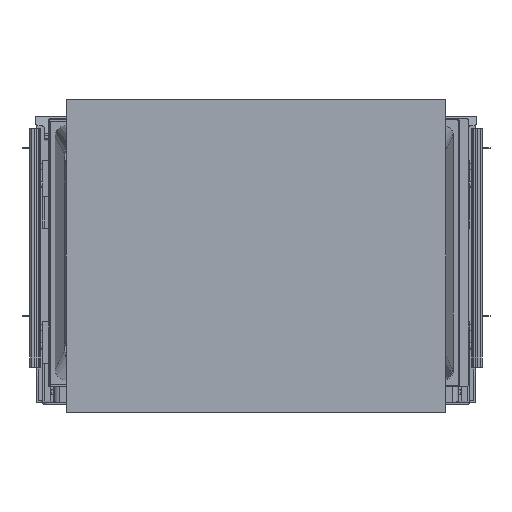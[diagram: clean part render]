
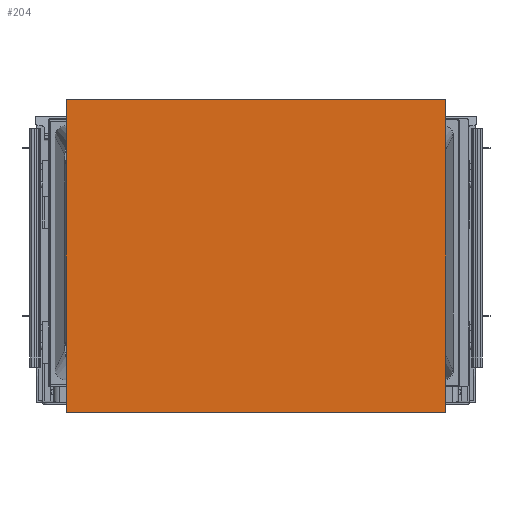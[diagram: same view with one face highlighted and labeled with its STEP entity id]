
A CAD part, front view. The second image highlights one B-rep face of the part: STEP entity #204.
In plain terms, the highlighted planar face has unit normal (0, -1, 0).
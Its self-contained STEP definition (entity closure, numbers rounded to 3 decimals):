
#62=DIRECTION('',(0.,0.,1.));
#63=VECTOR('',#62,393.);
#64=CARTESIAN_POINT('',(-238.5,-16.,-374.));
#65=LINE('',#64,#63);
#66=DIRECTION('',(-1.,0.,0.));
#67=VECTOR('',#66,477.);
#68=CARTESIAN_POINT('',(238.5,-16.,-374.));
#69=LINE('',#68,#67);
#74=DIRECTION('',(-1.,0.,0.));
#75=VECTOR('',#74,477.);
#76=CARTESIAN_POINT('',(238.5,-16.,19.));
#77=LINE('',#76,#75);
#102=DIRECTION('',(0.,0.,1.));
#103=VECTOR('',#102,393.);
#104=CARTESIAN_POINT('',(238.5,-16.,-374.));
#105=LINE('',#104,#103);
#126=CARTESIAN_POINT('',(-238.5,-16.,19.));
#127=VERTEX_POINT('',#126);
#128=CARTESIAN_POINT('',(-238.5,-16.,-374.));
#129=VERTEX_POINT('',#128);
#134=CARTESIAN_POINT('',(238.5,-16.,-374.));
#135=VERTEX_POINT('',#134);
#136=CARTESIAN_POINT('',(238.5,-16.,19.));
#137=VERTEX_POINT('',#136);
#191=CARTESIAN_POINT('',(-238.5,-16.,19.));
#192=DIRECTION('',(0.,-1.,0.));
#193=DIRECTION('',(0.,0.,-1.));
#194=AXIS2_PLACEMENT_3D('',#191,#192,#193);
#195=PLANE('',#194);
#196=ORIENTED_EDGE('',*,*,#155,.T.);
#198=ORIENTED_EDGE('',*,*,#197,.F.);
#200=ORIENTED_EDGE('',*,*,#199,.F.);
#201=ORIENTED_EDGE('',*,*,#183,.T.);
#202=EDGE_LOOP('',(#196,#198,#200,#201));
#203=FACE_OUTER_BOUND('',#202,.F.);
#155=EDGE_CURVE('',#129,#127,#65,.T.);
#183=EDGE_CURVE('',#135,#129,#69,.T.);
#197=EDGE_CURVE('',#137,#127,#77,.T.);
#199=EDGE_CURVE('',#135,#137,#105,.T.);
#204=ADVANCED_FACE('',(#203),#195,.T.);
